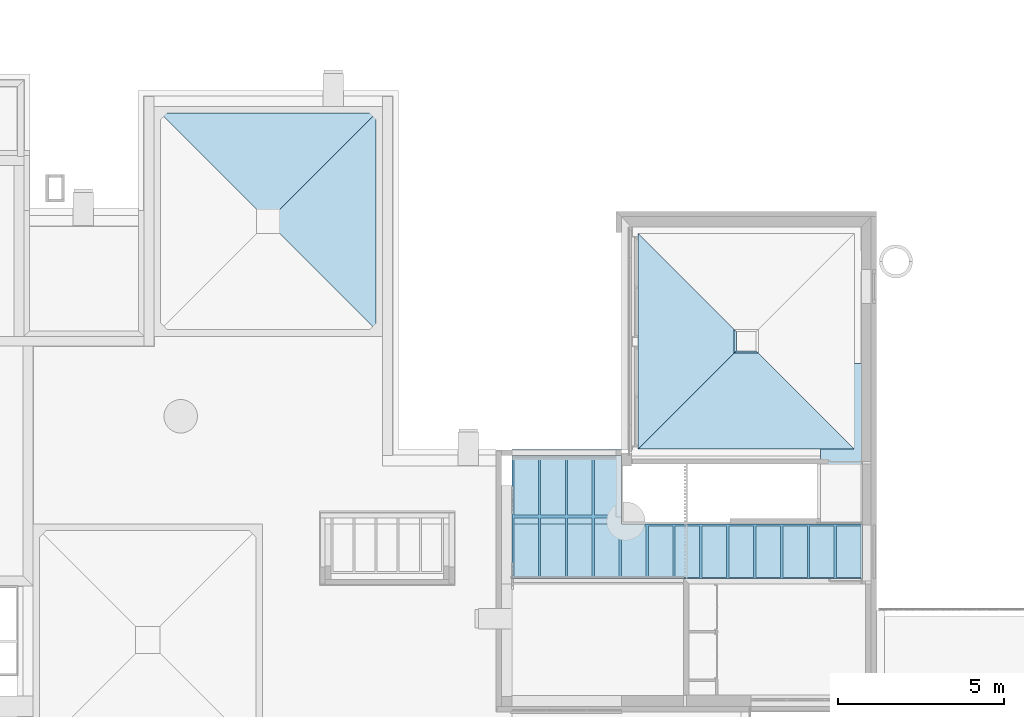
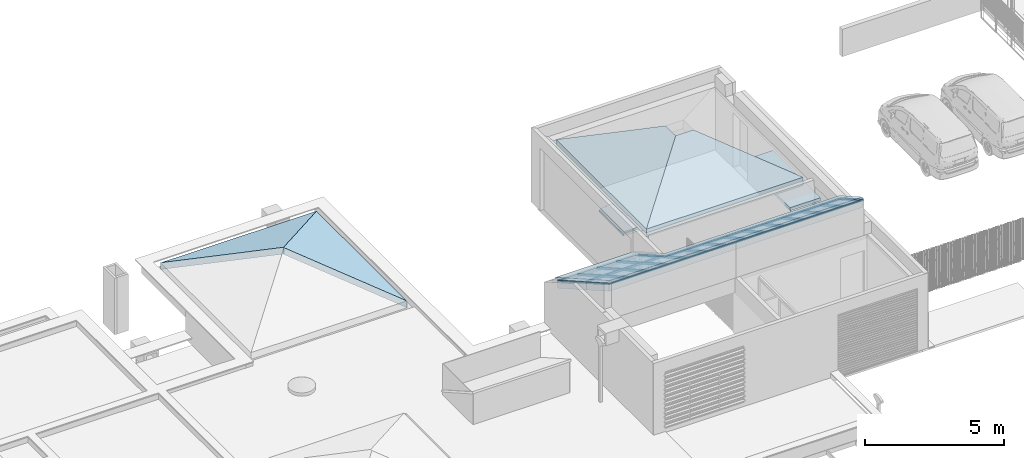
# One storey, part 22 of 51: 10 slabs.
"""IFC2X3 building model written with IfcOpenShell, lengths in metres."""

from ifc_helpers import new_model, entity, si_unit, converted_unit, derived_unit, direction, frame, origin, place, context, subcontext, project, spatial, faceted_brep, material, layer, layer_set, layer_usage, type_object, element, save


model = new_model("IFC2X3")

# Units and contexts
model_context = context("Model", 3, precision=1e-05, world=origin(), true_north=direction((6.123031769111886e-17, 1.0)))
body_context = subcontext(model_context, "Body", "Model", "MODEL_VIEW")
ifc_project = project(units=[si_unit("LENGTHUNIT", "METRE"), si_unit("AREAUNIT", "SQUARE_METRE"), si_unit("VOLUMEUNIT", "CUBIC_METRE"), converted_unit("PLANEANGLEUNIT", "DEGREE", entity("IfcRatioMeasure", 0.017453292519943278), si_unit("PLANEANGLEUNIT", "RADIAN"), dimensions=[0, 0, 0, 0, 0, 0, 0]), si_unit("MASSUNIT", "GRAM", prefix="KILO"), derived_unit("MASSDENSITYUNIT", [(si_unit("MASSUNIT", "GRAM", prefix="KILO"), 1), (si_unit("LENGTHUNIT", "METRE"), -3)]), derived_unit("MOMENTOFINERTIAUNIT", [(si_unit("LENGTHUNIT", "METRE"), 4)]), si_unit("TIMEUNIT", "SECOND"), si_unit("FREQUENCYUNIT", "HERTZ"), si_unit("THERMODYNAMICTEMPERATUREUNIT", "DEGREE_CELSIUS"), derived_unit("THERMALTRANSMITTANCEUNIT", [(si_unit("MASSUNIT", "GRAM", prefix="KILO"), 1), (si_unit("THERMODYNAMICTEMPERATUREUNIT", "KELVIN"), -1), (si_unit("TIMEUNIT", "SECOND"), -3)]), derived_unit("THERMALCONDUCTANCEUNIT", [(si_unit("MASSUNIT", "GRAM", prefix="KILO"), 1), (si_unit("LENGTHUNIT", "METRE"), 1), (si_unit("THERMODYNAMICTEMPERATUREUNIT", "KELVIN"), -1), (si_unit("TIMEUNIT", "SECOND"), -3)]), derived_unit("VOLUMETRICFLOWRATEUNIT", [(si_unit("LENGTHUNIT", "METRE"), 3), (si_unit("TIMEUNIT", "SECOND"), -1)]), derived_unit("MASSFLOWRATEUNIT", [(si_unit("MASSUNIT", "GRAM", prefix="KILO"), 1), (si_unit("TIMEUNIT", "SECOND"), -1)]), derived_unit("ROTATIONALFREQUENCYUNIT", [(si_unit("TIMEUNIT", "SECOND"), -1)]), si_unit("ELECTRICCURRENTUNIT", "AMPERE"), si_unit("ELECTRICVOLTAGEUNIT", "VOLT"), si_unit("POWERUNIT", "WATT"), si_unit("FORCEUNIT", "NEWTON", prefix="KILO"), si_unit("ILLUMINANCEUNIT", "LUX"), si_unit("LUMINOUSFLUXUNIT", "LUMEN"), si_unit("LUMINOUSINTENSITYUNIT", "CANDELA"), derived_unit("USERDEFINED", [(si_unit("MASSUNIT", "GRAM", prefix="KILO"), -1), (si_unit("LENGTHUNIT", "METRE"), -2), (si_unit("TIMEUNIT", "SECOND"), 3), (si_unit("LUMINOUSFLUXUNIT", "LUMEN"), 1)]), derived_unit("USERDEFINED", [(si_unit("MASSUNIT", "GRAM", prefix="KILO"), 1), (si_unit("LENGTHUNIT", "METRE"), 3), (si_unit("TIMEUNIT", "SECOND"), -3), (si_unit("ELECTRICCURRENTUNIT", "AMPERE"), -2)]), derived_unit("USERDEFINED", [(si_unit("LENGTHUNIT", "METRE"), 2), (si_unit("TIMEUNIT", "SECOND"), -2)]), derived_unit("SOUNDPOWERUNIT", [(si_unit("MASSUNIT", "GRAM", prefix="KILO"), 1), (si_unit("LENGTHUNIT", "METRE"), 2), (si_unit("TIMEUNIT", "SECOND"), -3)]), derived_unit("SOUNDPRESSUREUNIT", [(si_unit("MASSUNIT", "GRAM", prefix="KILO"), 1), (si_unit("LENGTHUNIT", "METRE"), -1), (si_unit("TIMEUNIT", "SECOND"), -2)]), derived_unit("LINEARVELOCITYUNIT", [(si_unit("LENGTHUNIT", "METRE"), 1), (si_unit("TIMEUNIT", "SECOND"), -1)]), si_unit("PRESSUREUNIT", "PASCAL"), derived_unit("USERDEFINED", [(si_unit("LENGTHUNIT", "METRE"), -2), (si_unit("MASSUNIT", "GRAM", prefix="KILO"), 1), (si_unit("TIMEUNIT", "SECOND"), -2)]), derived_unit("LINEARFORCEUNIT", [(si_unit("MASSUNIT", "GRAM", prefix="KILO"), 1), (si_unit("LENGTHUNIT", "METRE"), 1), (si_unit("TIMEUNIT", "SECOND"), -2), (si_unit("LENGTHUNIT", "METRE"), -1)]), derived_unit("PLANARFORCEUNIT", [(si_unit("MASSUNIT", "GRAM", prefix="KILO"), 1), (si_unit("LENGTHUNIT", "METRE"), 1), (si_unit("TIMEUNIT", "SECOND"), -2), (si_unit("LENGTHUNIT", "METRE"), -2)]), derived_unit("SPECIFICHEATCAPACITYUNIT", [(si_unit("LENGTHUNIT", "METRE"), 2), (si_unit("TIMEUNIT", "SECOND"), -2), (si_unit("THERMODYNAMICTEMPERATUREUNIT", "KELVIN"), -1)]), derived_unit("VAPORPERMEABILITYUNIT", [(si_unit("TIMEUNIT", "SECOND"), 1), (si_unit("LENGTHUNIT", "METRE"), -1)]), derived_unit("DYNAMICVISCOSITYUNIT", [(si_unit("MASSUNIT", "GRAM", prefix="KILO"), 1), (si_unit("LENGTHUNIT", "METRE"), -1), (si_unit("TIMEUNIT", "SECOND"), -1)]), derived_unit("THERMALEXPANSIONCOEFFICIENTUNIT", [(si_unit("THERMODYNAMICTEMPERATUREUNIT", "KELVIN"), -1)])], contexts=[model_context])

# Site, building, storey
site_placement = place(None, origin())
site = spatial("IfcSite", under=ifc_project, at=site_placement, Name="Default", CompositionType="ELEMENT")
building_placement = place(site_placement, origin())
building = spatial("IfcBuilding", under=site, at=building_placement, CompositionType="ELEMENT")
storey_placement = place(building_placement, frame((0.0, 0.0, 3.06)))
storey = spatial("IfcBuildingStorey", under=building, at=storey_placement, Name="ÉTAGE", CompositionType="ELEMENT", Elevation=3.06)

# Slabs
ifc_material_1 = material(Name="Bois - Chêne clair")
slab_type_1 = type_object("IfcSlabType", Name="Toit-01", PredefinedType="ROOF", material=ifc_material_1)
slab_1_placement = place(storey_placement, frame((117.38075228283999, 11.607209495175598, 2.039999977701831)))
element("IfcSlab", 1, at=slab_1_placement, inside=storey, type_object=slab_type_1, Name="Toit-01:Toit-01", ObjectType="Toit-01:Toit-01", PredefinedType="ROOF", context=body_context, shape_type="Brep", body=[
    faceted_brep([(10.589999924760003, 0.0, 2.2027099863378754), (10.589999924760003, 1.6399999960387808, 1.2706979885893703), (3.2999999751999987, 1.6399999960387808, 1.2706979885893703), (3.2999999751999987, 3.699999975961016, 0.09999999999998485), (3.2299999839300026, 3.699999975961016, 0.09999999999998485), (3.2299999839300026, 1.899999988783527, 1.1229399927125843), (2.489999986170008, 1.899999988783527, 1.1229399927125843), (2.489999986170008, 3.6999999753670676, 0.10000000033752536), (2.4199999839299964, 3.6999999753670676, 0.10000000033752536), (2.4199999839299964, 1.8999999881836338, 1.1229399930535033), (1.6799999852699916, 1.8999999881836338, 1.1229399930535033), (1.6799999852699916, 3.6999999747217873, 0.10000000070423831), (1.6099999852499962, 3.6999999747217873, 0.10000000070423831), (1.6099999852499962, 1.8999999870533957, 1.122939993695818), (0.8699999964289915, 1.8999999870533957, 1.122939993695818), (0.8699999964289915, 3.699999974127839, 0.10000000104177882), (0.7999999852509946, 3.699999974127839, 0.10000000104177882), (0.7999999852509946, 1.8999999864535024, 1.122939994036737), (0.0599999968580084, 1.8999999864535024, 1.122939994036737), (0.0599999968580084, 3.6999999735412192, 0.10000000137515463), (0.0, 3.6999999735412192, 0.10000000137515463), (0.0, 0.0, 2.2027099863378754), (0.059999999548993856, 1.8099999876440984, 1.1740869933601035), (0.799999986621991, 1.8099999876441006, 1.1740869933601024), (0.799999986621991, 0.030000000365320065, 2.185660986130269), (0.059999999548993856, 0.030000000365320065, 2.185660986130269), (1.609999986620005, 1.8099999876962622, 1.1740869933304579), (1.609999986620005, 0.03000000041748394, 2.1856609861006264), (0.8699999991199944, 0.03000000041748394, 2.185660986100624), (0.8699999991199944, 1.8099999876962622, 1.174086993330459), (2.419999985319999, 0.030000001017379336, 2.1856609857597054), (1.6799999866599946, 0.030000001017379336, 2.1856609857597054), (1.6799999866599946, 1.8099999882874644, 1.1740869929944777), (2.419999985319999, 1.8099999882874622, 1.1740869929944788), (2.4899999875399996, 1.8099999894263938, 1.1740869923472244), (3.2299999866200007, 1.8099999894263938, 1.1740869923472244), (3.2299999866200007, 0.030000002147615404, 2.1856609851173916), (2.4899999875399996, 0.030000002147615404, 2.1856609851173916), (4.039999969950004, 0.030000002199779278, 2.1856609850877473), (3.299999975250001, 0.030000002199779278, 2.1856609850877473), (3.299999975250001, 1.5799999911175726, 1.3047959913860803), (4.039999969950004, 1.5799999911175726, 1.3047959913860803), (4.849999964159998, 0.030000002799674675, 2.185660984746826), (4.109999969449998, 0.030000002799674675, 2.185660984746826), (4.109999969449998, 1.579999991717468, 1.30479599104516), (4.849999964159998, 1.5799999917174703, 1.30479599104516), (5.659999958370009, 0.03000000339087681, 2.185660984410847), (4.919999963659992, 0.03000000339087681, 2.185660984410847), (4.919999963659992, 1.5799999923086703, 1.30479599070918), (5.659999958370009, 1.5799999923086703, 1.30479599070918), (6.469999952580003, 0.030000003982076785, 2.1856609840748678), (5.729999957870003, 0.030000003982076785, 2.1856609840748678), (5.729999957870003, 1.57999999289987, 1.304795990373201), (6.469999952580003, 1.57999999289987, 1.304795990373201), (6.539999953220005, 1.5799999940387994, 1.3047959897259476), (7.279999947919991, 1.5799999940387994, 1.3047959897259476), (7.279999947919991, 0.03000000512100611, 2.1856609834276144), (6.539999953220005, 0.03000000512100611, 2.1856609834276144), (8.089999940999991, 0.030000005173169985, 2.1856609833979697), (7.349999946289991, 0.030000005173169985, 2.1856609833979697), (7.349999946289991, 1.5799999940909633, 1.304795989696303), (8.089999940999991, 1.5799999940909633, 1.304795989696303), (8.899999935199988, 0.03000000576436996, 2.185660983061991), (8.159999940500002, 0.03000000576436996, 2.185660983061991), (8.159999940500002, 1.5799999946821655, 1.304795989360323), (8.899999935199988, 1.5799999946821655, 1.304795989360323), (9.70999992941, 0.030000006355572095, 2.1856609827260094), (8.969999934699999, 0.03000000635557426, 2.1856609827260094), (8.969999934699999, 1.5799999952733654, 1.304795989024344), (9.70999992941, 1.5799999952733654, 1.304795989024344), (10.519999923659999, 0.030000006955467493, 2.1856609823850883), (9.779999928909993, 0.030000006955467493, 2.1856609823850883), (9.779999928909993, 1.579999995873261, 1.3047959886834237), (10.519999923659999, 1.579999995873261, 1.3047959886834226), (10.589999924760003, 0.0, 2.1027099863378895), (0.0, 0.0, 2.1027099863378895), (0.0, 3.6999999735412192, 1.3751697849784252e-09), (0.0599999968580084, 3.6999999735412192, 1.3751697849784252e-09), (0.0599999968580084, 1.8999999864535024, 1.022939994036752), (0.7999999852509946, 1.8999999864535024, 1.022939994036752), (0.7999999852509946, 3.699999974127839, 1.0417939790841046e-09), (0.8699999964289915, 3.699999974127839, 1.0417939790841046e-09), (0.8699999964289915, 1.8999999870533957, 1.022939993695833), (1.6099999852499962, 1.8999999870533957, 1.022939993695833), (1.6099999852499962, 3.6999999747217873, 0.0), (1.6799999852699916, 3.6999999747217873, 0.0), (1.6799999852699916, 1.8999999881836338, 1.0229399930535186), (2.4199999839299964, 1.8999999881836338, 1.0229399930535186), (2.4199999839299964, 3.6999999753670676, 0.0), (2.489999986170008, 3.6999999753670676, 0.0), (2.489999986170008, 1.899999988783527, 1.0229399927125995), (3.2299999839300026, 1.899999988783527, 1.0229399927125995), (3.2299999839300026, 3.699999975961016, 0.0), (3.2999999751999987, 3.699999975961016, 0.0), (3.2999999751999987, 1.6399999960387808, 1.1706979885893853), (10.589999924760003, 1.6399999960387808, 1.1706979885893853), (0.799999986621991, 1.8099999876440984, 1.0740869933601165), (0.059999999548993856, 1.8099999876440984, 1.0740869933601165), (0.059999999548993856, 0.030000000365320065, 2.085660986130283), (0.799999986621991, 0.030000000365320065, 2.085660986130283), (1.609999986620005, 0.03000000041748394, 2.0856609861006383), (1.609999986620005, 1.8099999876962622, 1.074086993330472), (0.8699999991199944, 1.8099999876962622, 1.074086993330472), (0.8699999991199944, 0.03000000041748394, 2.0856609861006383), (1.6799999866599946, 0.030000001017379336, 2.0856609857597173), (2.419999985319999, 0.030000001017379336, 2.0856609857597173), (2.419999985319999, 1.8099999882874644, 1.0740869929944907), (1.6799999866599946, 1.8099999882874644, 1.0740869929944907), (3.2299999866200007, 1.8099999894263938, 1.0740869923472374), (2.4899999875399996, 1.8099999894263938, 1.0740869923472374), (2.4899999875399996, 0.030000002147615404, 2.0856609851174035), (3.2299999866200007, 0.030000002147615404, 2.0856609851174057), (3.299999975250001, 0.030000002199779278, 2.085660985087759), (4.039999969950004, 0.030000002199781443, 2.085660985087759), (4.039999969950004, 1.5799999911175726, 1.2047959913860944), (3.299999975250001, 1.5799999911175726, 1.2047959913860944), (4.109999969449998, 0.030000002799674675, 2.08566098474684), (4.849999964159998, 0.030000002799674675, 2.08566098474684), (4.849999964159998, 1.579999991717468, 1.204795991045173), (4.109999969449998, 1.579999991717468, 1.204795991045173), (4.919999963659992, 0.03000000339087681, 2.085660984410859), (5.659999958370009, 0.03000000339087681, 2.085660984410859), (5.659999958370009, 1.5799999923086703, 1.204795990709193), (4.919999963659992, 1.579999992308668, 1.204795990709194), (5.729999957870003, 0.030000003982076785, 2.0856609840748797), (6.469999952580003, 0.030000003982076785, 2.0856609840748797), (6.469999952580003, 1.57999999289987, 1.204795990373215), (5.729999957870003, 1.57999999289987, 1.204795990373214), (7.279999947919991, 1.5799999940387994, 1.2047959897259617), (6.539999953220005, 1.5799999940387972, 1.2047959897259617), (6.539999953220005, 0.03000000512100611, 2.0856609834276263), (7.279999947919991, 0.030000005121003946, 2.0856609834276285), (7.349999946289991, 0.030000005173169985, 2.0856609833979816), (8.089999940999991, 0.030000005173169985, 2.0856609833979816), (8.089999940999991, 1.5799999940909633, 1.2047959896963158), (7.349999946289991, 1.5799999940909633, 1.2047959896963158), (8.159999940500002, 0.03000000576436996, 2.0856609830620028), (8.899999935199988, 0.03000000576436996, 2.0856609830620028), (8.899999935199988, 1.5799999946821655, 1.204795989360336), (8.159999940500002, 1.5799999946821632, 1.2047959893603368), (8.969999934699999, 0.030000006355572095, 2.0856609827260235), (9.70999992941, 0.03000000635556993, 2.0856609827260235), (9.70999992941, 1.5799999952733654, 1.204795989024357), (8.969999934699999, 1.5799999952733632, 1.2047959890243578), (9.779999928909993, 0.030000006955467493, 2.0856609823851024), (10.519999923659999, 0.030000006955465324, 2.0856609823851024), (10.519999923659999, 1.579999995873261, 1.2047959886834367), (9.779999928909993, 1.5799999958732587, 1.2047959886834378)], [[[0, 1, 2, 3, 4, 5, 6, 7, 8, 9, 10, 11, 12, 13, 14, 15, 16, 17, 18, 19, 20, 21], [22, 23, 24, 25], [26, 27, 28, 29], [30, 31, 32, 33], [34, 35, 36, 37], [38, 39, 40, 41], [42, 43, 44, 45], [46, 47, 48, 49], [50, 51, 52, 53], [54, 55, 56, 57], [58, 59, 60, 61], [62, 63, 64, 65], [66, 67, 68, 69], [70, 71, 72, 73]], [[74, 75, 76, 77, 78, 79, 80, 81, 82, 83, 84, 85, 86, 87, 88, 89, 90, 91, 92, 93, 94, 95], [96, 97, 98, 99], [100, 101, 102, 103], [104, 105, 106, 107], [108, 109, 110, 111], [112, 113, 114, 115], [116, 117, 118, 119], [120, 121, 122, 123], [124, 125, 126, 127], [128, 129, 130, 131], [132, 133, 134, 135], [136, 137, 138, 139], [140, 141, 142, 143], [144, 145, 146, 147]], [[1, 0, 74, 95]], [[2, 1, 95, 94]], [[3, 2, 94, 93]], [[4, 3, 93, 92]], [[5, 4, 92, 91]], [[6, 5, 91, 90]], [[7, 6, 90, 89]], [[8, 7, 89, 88]], [[9, 8, 88, 87]], [[10, 9, 87, 86]], [[11, 10, 86, 85]], [[12, 11, 85, 84]], [[13, 12, 84, 83]], [[14, 13, 83, 82]], [[15, 14, 82, 81]], [[16, 15, 81, 80]], [[17, 16, 80, 79]], [[18, 17, 79, 78]], [[19, 18, 78, 77]], [[20, 19, 77, 76]], [[21, 20, 76, 75]], [[0, 21, 75, 74]], [[96, 23, 22, 97]], [[97, 22, 25, 98]], [[98, 25, 24, 99]], [[23, 96, 99, 24]], [[100, 27, 26, 101]], [[101, 26, 29, 102]], [[102, 29, 28, 103]], [[27, 100, 103, 28]], [[104, 31, 30, 105]], [[105, 30, 33, 106]], [[106, 33, 32, 107]], [[31, 104, 107, 32]], [[108, 35, 34, 109]], [[109, 34, 37, 110]], [[110, 37, 36, 111]], [[35, 108, 111, 36]], [[112, 39, 38, 113]], [[113, 38, 41, 114]], [[114, 41, 40, 115]], [[39, 112, 115, 40]], [[116, 43, 42, 117]], [[117, 42, 45, 118]], [[118, 45, 44, 119]], [[43, 116, 119, 44]], [[120, 47, 46, 121]], [[121, 46, 49, 122]], [[122, 49, 48, 123]], [[47, 120, 123, 48]], [[124, 51, 50, 125]], [[125, 50, 53, 126]], [[126, 53, 52, 127]], [[51, 124, 127, 52]], [[128, 55, 54, 129]], [[129, 54, 57, 130]], [[130, 57, 56, 131]], [[55, 128, 131, 56]], [[132, 59, 58, 133]], [[133, 58, 61, 134]], [[134, 61, 60, 135]], [[59, 132, 135, 60]], [[136, 63, 62, 137]], [[137, 62, 65, 138]], [[138, 65, 64, 139]], [[63, 136, 139, 64]], [[140, 67, 66, 141]], [[141, 66, 69, 142]], [[142, 69, 68, 143]], [[67, 140, 143, 68]], [[144, 71, 70, 145]], [[145, 70, 73, 146]], [[146, 73, 72, 147]], [[71, 144, 147, 72]]]),
])
slab_type_2 = type_object("IfcSlabType", Name="Dalle-006 252491:Dalle-006 252491", PredefinedType="FLOOR")
slab_2_placement = place(storey_placement, frame((120.680752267, 14.642296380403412, 2.3200000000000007)))
element("IfcSlab", 2, at=slab_2_placement, inside=storey, type_object=slab_type_2, Name="Dalle-006 252491:Dalle-006 252491", ObjectType="Dalle-006 252491:Dalle-006 252491", PredefinedType="FLOOR", context=body_context, shape_type="Brep", body=[
    faceted_brep([(0.3000000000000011, 3.4399999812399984, 0.019999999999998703), (0.3000000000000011, 3.3899999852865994, 0.019999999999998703), (0.0, 3.3899999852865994, 0.019999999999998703), (0.0, 1.639999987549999, 0.019999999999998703), (3.270000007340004, 1.639999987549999, 0.019999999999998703), (3.270000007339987, 1.7999999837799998, 0.019999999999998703), (5.890000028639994, 1.7999999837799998, 0.019999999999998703), (5.890000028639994, 1.639999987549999, 0.019999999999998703), (5.990000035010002, 1.639999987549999, 0.019999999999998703), (5.990000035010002, 0.0, 0.019999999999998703), (7.260000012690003, 0.0, 0.019999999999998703), (7.260000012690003, 3.4399999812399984, 0.019999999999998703), (0.3000000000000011, 3.3899999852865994, 0.0), (0.3000000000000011, 3.4399999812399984, 0.0), (7.260000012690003, 3.4399999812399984, 0.0), (7.260000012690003, 0.0, 0.0), (5.990000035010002, 0.0, 0.0), (5.990000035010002, 1.639999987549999, 0.0), (5.890000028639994, 1.639999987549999, 0.0), (5.890000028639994, 1.7999999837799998, 0.0), (3.270000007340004, 1.7999999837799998, 0.0), (3.270000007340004, 1.639999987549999, 0.0), (0.0, 1.639999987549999, 0.0), (0.0, 3.3899999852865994, 0.0)], [[[0, 1, 2, 3, 4, 5, 6, 7, 8, 9, 10, 11]], [[12, 13, 14, 15, 16, 17, 18, 19, 20, 21, 22, 23]], [[1, 0, 13, 12]], [[2, 1, 12, 23]], [[3, 2, 23, 22]], [[3, 22, 21, 4]], [[9, 8, 17, 16]], [[10, 9, 16, 15]], [[11, 10, 15, 14]], [[0, 11, 14, 13]], [[20, 5, 4, 21]], [[6, 19, 18, 7]], [[5, 20, 19, 6]], [[17, 8, 7, 18]]]),
    faceted_brep([(0.3000000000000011, 3.4399999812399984, 0.13999999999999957), (0.3000000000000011, 3.3899999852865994, 0.13999999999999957), (0.050000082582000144, 3.3899999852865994, 0.13999999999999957), (0.050000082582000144, 1.689999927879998, 0.13999999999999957), (3.270000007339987, 1.689999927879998, 0.13999999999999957), (3.270000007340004, 1.7999999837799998, 0.13999999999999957), (5.890000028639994, 1.7999999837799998, 0.13999999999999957), (5.890000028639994, 1.639999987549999, 0.13999999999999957), (5.990000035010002, 1.639999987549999, 0.13999999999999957), (5.990000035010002, 0.0, 0.13999999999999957), (7.260000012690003, 0.0, 0.13999999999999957), (7.260000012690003, 3.4399999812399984, 0.13999999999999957), (0.3000000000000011, 3.3899999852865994, 0.019999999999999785), (0.3000000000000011, 3.4399999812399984, 0.019999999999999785), (7.260000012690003, 3.4399999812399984, 0.019999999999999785), (7.260000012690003, 0.0, 0.019999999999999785), (5.990000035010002, 0.0, 0.019999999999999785), (5.990000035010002, 1.639999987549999, 0.019999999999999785), (5.890000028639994, 1.639999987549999, 0.019999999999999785), (5.890000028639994, 1.7999999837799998, 0.019999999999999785), (3.270000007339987, 1.7999999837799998, 0.019999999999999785), (3.270000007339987, 1.639999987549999, 0.019999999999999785), (0.0, 1.639999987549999, 0.019999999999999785), (0.0, 3.3899999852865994, 0.019999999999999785), (0.0, 3.3899999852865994, 0.08999999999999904), (0.050000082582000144, 3.3899999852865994, 0.09000000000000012), (0.0, 1.639999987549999, 0.08999999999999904), (0.050000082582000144, 1.689999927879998, 0.09000000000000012), (0.050000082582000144, 3.389999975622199, 0.09000000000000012), (3.270000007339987, 1.689999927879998, 0.09000000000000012), (3.270000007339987, 1.639999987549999, 0.09000000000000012), (3.270000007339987, 1.6399999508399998, 0.09000000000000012)], [[[0, 1, 2, 3, 4, 5, 6, 7, 8, 9, 10, 11]], [[12, 13, 14, 15, 16, 17, 18, 19, 20, 21, 22, 23]], [[1, 0, 13, 12]], [[12, 23, 24, 25, 2, 1]], [[23, 22, 26, 24]], [[17, 8, 7, 18]], [[9, 8, 17, 16]], [[10, 9, 16, 15]], [[11, 10, 15, 14]], [[0, 11, 14, 13]], [[27, 3, 2, 28]], [[6, 19, 18, 7]], [[19, 6, 5, 20]], [[20, 5, 4, 29, 30, 21]], [[3, 27, 29, 4]], [[27, 25, 24, 26, 31, 29]], [[22, 21, 30, 26]]]),
])
ifc_material_2 = material(Name="Isolation - Fibre de verre")
slab_type_3 = type_object("IfcSlabType", Name="Toit-01", PredefinedType="ROOF", material=ifc_material_2)
slab_3_placement = place(storey_placement, frame((121.18075226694, 15.497209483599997, 2.569999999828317)))
element("IfcSlab", 3, at=slab_3_placement, inside=storey, type_object=slab_type_3, Name="Toit-01 843474:Toit-01 843474", ObjectType="Toit-01 843474:Toit-01 843474", PredefinedType="ROOF", context=body_context, shape_type="Brep", body=[
    faceted_brep([(6.520000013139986, 0.0, 0.35303933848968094), (3.6295264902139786, 2.890473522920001, 1.700000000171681), (2.890473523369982, 2.890473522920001, 1.700000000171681), (0.0, 0.0, 0.35303933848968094), (6.520000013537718, 0.0, 0.022064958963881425), (3.5630578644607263, 2.9569421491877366, 1.400000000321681), (2.9569421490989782, 2.9569421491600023, 1.400000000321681), (0.0, 0.0, 0.022064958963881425), (0.0, 0.0, 0.0), (6.520000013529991, 0.0, 0.0), (2.9613733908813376, 2.9613733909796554, 1.380000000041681), (3.5586266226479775, 2.9613733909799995, 1.380000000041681)], [[[0, 1, 2, 3]], [[0, 4, 5, 1]], [[1, 5, 6, 2]], [[2, 6, 7, 3]], [[3, 7, 4, 0]], [[4, 7, 6, 5]], [[7, 8, 9, 4]], [[6, 10, 8, 7]], [[8, 10, 11, 9]], [[4, 9, 11, 5]], [[4, 5, 6, 7]], [[5, 11, 10, 6]]]),
])
slab_type_4 = type_object("IfcSlabType", Name="Toit-01", PredefinedType="ROOF", material=ifc_material_2)
slab_4_placement = place(storey_placement, frame((121.180752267, 15.49720948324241, 2.569999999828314)))
element("IfcSlab", 4, at=slab_4_placement, inside=storey, type_object=slab_type_4, Name="Toit-01 843963:Toit-01 843963", ObjectType="Toit-01 843963:Toit-01 843963", PredefinedType="ROOF", context=body_context, shape_type="Brep", body=[
    faceted_brep([(2.8904735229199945, 2.89047352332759, 1.7000000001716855), (2.8904735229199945, 3.6095264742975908, 1.7000000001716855), (0.0, 6.499999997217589, 0.3530393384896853), (0.0, 0.0, 0.3530393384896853), (2.9569421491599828, 2.9569421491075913, 1.400000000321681), (2.9569421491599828, 3.543057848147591, 1.400000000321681), (0.0, 6.499999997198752, 0.022064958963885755), (0.0, 0.0, 0.022064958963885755), (0.0, 0.0, 0.0), (2.961373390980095, 2.961373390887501, 1.3800000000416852), (0.0, 6.499999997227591, 0.0), (2.961373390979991, 3.538626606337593, 1.3800000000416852)], [[[0, 1, 2, 3]], [[0, 4, 5, 1]], [[1, 5, 6, 2]], [[2, 6, 7, 3]], [[3, 7, 4, 0]], [[4, 7, 6, 5]], [[7, 8, 9, 4]], [[6, 10, 8, 7]], [[8, 10, 11, 9]], [[4, 9, 11, 5]], [[4, 5, 6, 7]], [[5, 11, 10, 6]]]),
])
ifc_material_3 = material(Name="Toit - Tuiles françaises rouges")
ifc_layer_1 = layer(ifc_material_3, 0.271924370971)
ifc_layer_set_1 = layer_set([ifc_layer_1], Name="Toit de base:Toit-01:1534")
ifc_layer_usage_1 = layer_usage(ifc_layer_set_1, "AXIS3", "NEGATIVE", 0.0)
slab_type_5 = type_object("IfcSlabType", Name="Toit-01", PredefinedType="ROOF")
slab_5_placement = place(storey_placement, frame((106.80075227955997, 22.372209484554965, 0.03999999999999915)))
element("IfcSlab", 5, at=slab_5_placement, inside=storey, type_object=slab_type_5, material=ifc_layer_usage_1, Name="Toit de base:Toit-01:1534", ObjectType="Toit de base:Toit-01:1534", PredefinedType="ROOF", context=body_context, shape_type="Brep", body=[
    faceted_brep([(3.2449999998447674, 0.0, 1.5121699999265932), (0.0, 3.2449999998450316, 0.0), (6.489999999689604, 3.244999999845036, 0.0), (0.0, 3.2449999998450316, 0.30000000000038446), (3.2449999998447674, 0.0, 1.8121699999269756), (6.489999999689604, 3.244999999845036, 0.3000000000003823)], [[[0, 1, 2]], [[3, 4, 5]], [[4, 3, 1, 0]], [[5, 4, 0, 2]], [[3, 5, 2, 1]]]),
])
slab_6_placement = place(storey_placement, frame((110.04575228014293, 19.09720948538, 0.040000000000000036)))
element("IfcSlab", 6, at=slab_6_placement, inside=storey, type_object=slab_type_5, material=ifc_layer_usage_1, Name="Toit de base:Toit-01:1534", ObjectType="Toit de base:Toit-01:1534", PredefinedType="ROOF", context=body_context, shape_type="Brep", body=[
    faceted_brep([(3.244999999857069, 6.5199999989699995, 0.0), (3.244999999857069, 0.0, 0.0), (0.0, 3.244999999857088, 1.512169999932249), (0.0, 3.274999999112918, 1.512169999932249), (3.244999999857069, 0.0, 0.30000000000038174), (3.244999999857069, 6.5199999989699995, 0.30000000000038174), (0.0, 3.274999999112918, 1.8121699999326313), (0.0, 3.244999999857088, 1.8121699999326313)], [[[0, 1, 2, 3]], [[4, 5, 6, 7]], [[5, 4, 1, 0]], [[6, 5, 0, 3]], [[7, 6, 3, 2]], [[4, 7, 2, 1]]]),
])
ifc_material_4 = material(Name="Transp. - Verre clair (rapide)")
ifc_layer_2 = layer(ifc_material_4, 0.0347764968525)
ifc_layer_set_2 = layer_set([ifc_layer_2], Name="Toit de base:Toit-01:1535")
ifc_layer_usage_2 = layer_usage(ifc_layer_set_2, "AXIS3", "NEGATIVE", 0.0)
slab_type_6 = type_object("IfcSlabType", Name="Toit-01", PredefinedType="ROOF")
slab_7_placement = place(storey_placement, frame((117.44075228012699, 11.637209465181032, 2.0599999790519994)))
element("IfcSlab", 7, at=slab_7_placement, inside=storey, type_object=slab_type_6, material=ifc_layer_usage_2, Name="Toit de base:Toit-01:1535", ObjectType="Toit de base:Toit-01:1535", PredefinedType="ROOF", context=body_context, shape_type="Brep", body=[
    faceted_brep([(0.0, 0.0, 2.08566100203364), (0.0, 3.6700000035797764, 0.0), (3.1699999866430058, 3.6700000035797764, 0.0), (3.1699999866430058, 1.5500000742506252, 1.204795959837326), (10.459999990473, 1.5500000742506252, 1.204795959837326), (10.459999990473, 0.0, 2.08566100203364), (0.0, 3.6700000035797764, 0.03999999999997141), (0.0, 0.0, 2.1256610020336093), (10.459999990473, 0.0, 2.1256610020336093), (10.459999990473, 1.5500000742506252, 1.244795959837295), (3.1699999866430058, 1.5500000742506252, 1.244795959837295), (3.1699999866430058, 3.6700000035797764, 0.03999999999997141)], [[[0, 1, 2, 3, 4, 5]], [[6, 7, 8, 9, 10, 11]], [[7, 6, 1, 0]], [[8, 7, 0, 5]], [[9, 8, 5, 4]], [[10, 9, 4, 3]], [[11, 10, 3, 2]], [[6, 11, 2, 1]]]),
])
ifc_material_5 = material(Name="Métal - Fer")
ifc_layer_3 = layer(ifc_material_5, 0.08694124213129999)
ifc_layer_set_3 = layer_set([ifc_layer_3], Name="Toit de base:Toit-01:1566")
ifc_layer_usage_3 = layer_usage(ifc_layer_set_3, "AXIS3", "NEGATIVE", 0.0)
slab_type_7 = type_object("IfcSlabType", Name="Toit-01", PredefinedType="ROOF")
slab_8_placement = place(storey_placement, frame((117.38075228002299, 11.587209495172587, 2.0377059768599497)))
element("IfcSlab", 8, at=slab_8_placement, inside=storey, type_object=slab_type_7, material=ifc_layer_usage_3, Name="Toit de base:Toit-01:1566", ObjectType="Toit de base:Toit-01:1566", PredefinedType="ROOF", context=body_context, shape_type="Brep", body=[
    faceted_brep([(0.0, 0.0, 2.216369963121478), (0.0, 3.899999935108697, 0.0), (3.299999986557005, 3.899999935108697, 0.0), (3.299999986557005, 1.6599999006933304, 1.2729920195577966), (10.54000000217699, 1.6599999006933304, 1.2729920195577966), (10.54000000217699, 0.0, 2.216369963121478), (0.0, 3.899999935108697, 0.09999999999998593), (0.0, 0.0, 2.3163699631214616), (10.54000000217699, 0.0, 2.3163699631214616), (10.54000000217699, 1.6599999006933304, 1.3729920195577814), (3.299999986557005, 1.6599999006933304, 1.3729920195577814), (3.299999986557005, 3.899999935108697, 0.09999999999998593)], [[[0, 1, 2, 3, 4, 5]], [[6, 7, 8, 9, 10, 11]], [[7, 6, 1, 0]], [[8, 7, 0, 5]], [[9, 8, 5, 4]], [[10, 9, 4, 3]], [[11, 10, 3, 2]], [[6, 11, 2, 1]]]),
])
ifc_layer_4 = layer(ifc_material_2, 0.29999999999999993)
ifc_material_6 = material(Name="Plâtre - Plaques de plâtre")
ifc_layer_5 = layer(ifc_material_6, 0.02)
ifc_layer_set_4 = layer_set([ifc_layer_4, ifc_layer_5], Name="Toit de base:Toit-01:1590")
ifc_layer_usage_4 = layer_usage(ifc_layer_set_4, "AXIS3", "NEGATIVE", 0.0)
slab_type_8 = type_object("IfcSlabType", Name="Toit-01", PredefinedType="ROOF")
slab_9_placement = place(storey_placement, frame((117.380752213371, 13.247209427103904, 1.7700000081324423)))
element("IfcSlab", 9, at=slab_9_placement, inside=storey, type_object=slab_type_8, material=ifc_layer_usage_4, Name="Toit de base:Toit-01:1590", ObjectType="Toit de base:Toit-01:1590", PredefinedType="ROOF", context=body_context, shape_type="Brep", body=[
    faceted_brep([(3.300000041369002, 0.0, 1.1706979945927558), (0.0, 0.0, 1.1706979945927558), (0.0, 2.05999999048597, 0.0), (3.300000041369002, 2.05999999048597, 0.0), (0.0, 0.0, 1.5387626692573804), (3.300000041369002, 0.0, 1.5387626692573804), (3.300000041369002, 2.05999999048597, 0.368064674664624), (0.0, 2.05999999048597, 0.368064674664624)], [[[0, 1, 2, 3]], [[4, 5, 6, 7]], [[5, 4, 1, 0]], [[6, 5, 0, 3]], [[7, 6, 3, 2]], [[4, 7, 2, 1]]]),
])
slab_10_placement = place(storey_placement, frame((117.38075227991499, 11.60720954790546, 1.769999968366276)))
element("IfcSlab", 10, at=slab_10_placement, inside=storey, type_object=slab_type_8, material=ifc_layer_usage_4, Name="Toit de base:Toit-01:1590", ObjectType="Toit de base:Toit-01:1590", PredefinedType="ROOF", context=body_context, shape_type="Brep", body=[
    faceted_brep([(0.0, 0.0, 2.1027099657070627), (0.0, 3.699999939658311, 0.0), (3.3000000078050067, 3.699999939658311, 0.0), (3.3000000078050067, 1.6399998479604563, 1.1706980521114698), (10.561000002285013, 1.6399998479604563, 1.1706980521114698), (10.561000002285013, 0.0, 2.1027099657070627), (0.0, 3.699999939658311, 0.368064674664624), (0.0, 0.0, 2.4707746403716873), (10.561000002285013, 0.0, 2.4707746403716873), (10.561000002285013, 1.6399998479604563, 1.5387627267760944), (3.3000000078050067, 1.6399998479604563, 1.5387627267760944), (3.3000000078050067, 3.699999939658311, 0.368064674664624)], [[[0, 1, 2, 3, 4, 5]], [[6, 7, 8, 9, 10, 11]], [[7, 6, 1, 0]], [[8, 7, 0, 5]], [[9, 8, 5, 4]], [[10, 9, 4, 3]], [[11, 10, 3, 2]], [[6, 11, 2, 1]]]),
])

save(model, "model.ifc")
